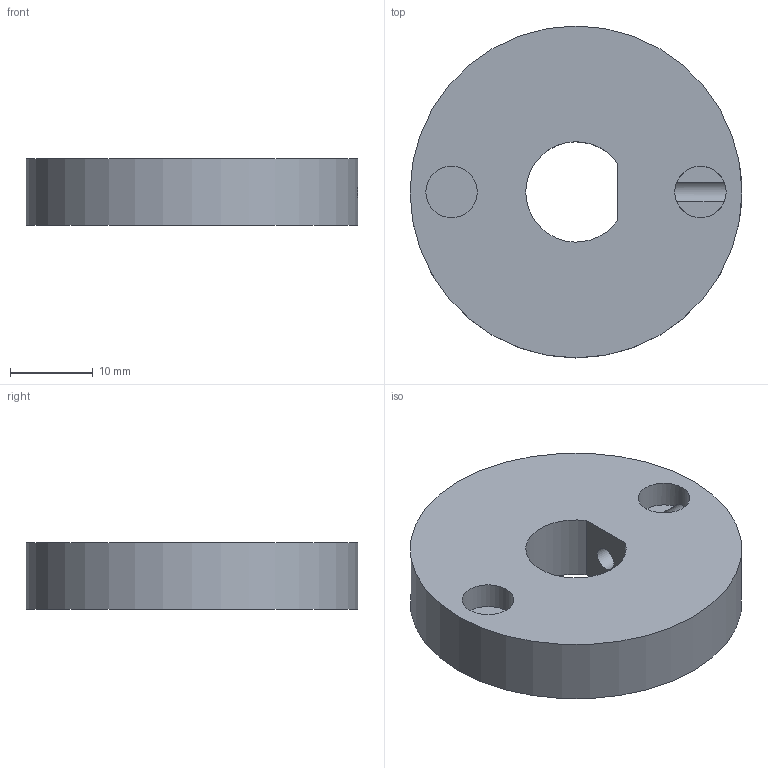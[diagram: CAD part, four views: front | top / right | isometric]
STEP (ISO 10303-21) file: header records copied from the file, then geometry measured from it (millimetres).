
FILE_DESCRIPTION(('Open CASCADE Model'),'2;1');
FILE_NAME('Open CASCADE Shape Model','2026-10-06T19:56:09',('Author'),( 'Open CASCADE'),'Open CASCADE STEP processor 7.9','Open CASCADE 7.9' ,'Unknown');
FILE_SCHEMA(('AUTOMOTIVE_DESIGN { 1 0 10303 214 1 1 1 1 }'));
Length unit declared in the file: millimetre
Products named in the file (1): Open CASCADE STEP translator 7.9 22
Bounding box: 40 x 40 x 8 mm (x, y, z)
Volume: 8890.1 mm3; surface area: 3810.1 mm2
Topology: 1 solids, 1 shells, 11 faces, 27 edges, 18 vertices
Faces by surface type: plane 6, cylinder 5
Full cylindrical faces by diameter (mm): 2.8 x1, 6.2 x2, 40 x1
Entity records: 1008 total; most frequent: CARTESIAN_POINT 470, DIRECTION 88, ORIENTED_EDGE 54, PCURVE 54, DEFINITIONAL_REPRESENTATION 54, LINE 35, VECTOR 35, EDGE_CURVE 27
